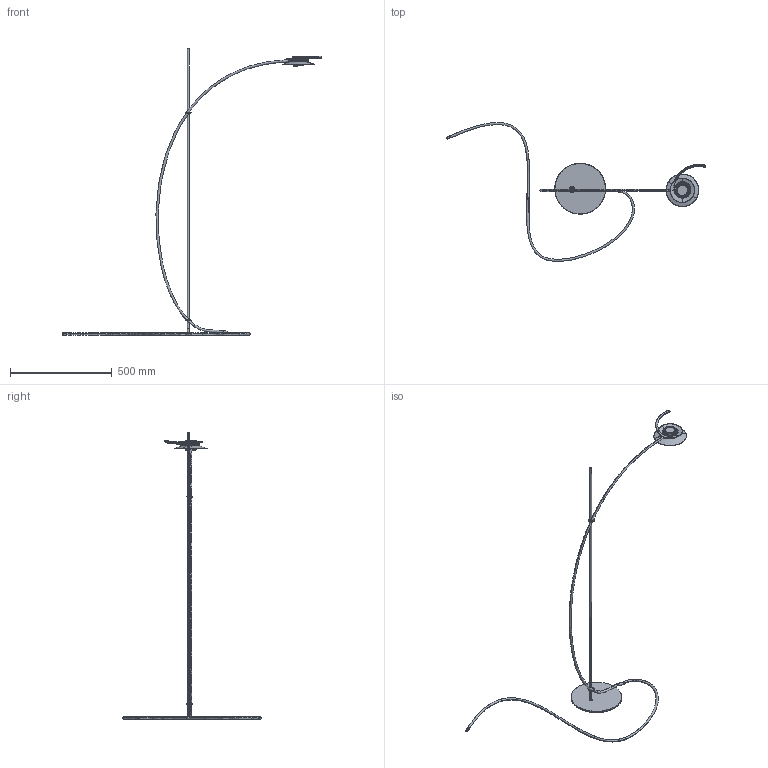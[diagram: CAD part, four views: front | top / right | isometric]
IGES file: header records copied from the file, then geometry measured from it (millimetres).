
Start section: 8718200_Bodenplatte..SLDPRT - PrototypeComponentType 8718200_Bodenplatte..SLDPRT - PrototypeComponentType Seil_Steh..SLDPRT - PrototypeComponentType Seil_Steh..SLDPRT - PrototypeComponentType socket countersunk head screw_din..sldprt - PrototypeComponentType socket countersunk head screw_din..sldprt - PrototypeComponentType 8718201_Standrohr..SLDPRT - PrototypeComponentType 8718201_Standrohr..SLDP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
Global section: file name: \\serv-dc-01\01_DESIGN\Design_Projekt\Produkte\Ms. Bowjangles\Produktzeichnungen\3D-Daten Website\Ms.Bowjangles\Ms.Bowjangles.igs; native system: Rhinoceros ( Dec  8 2020 ); preprocessor: Trout Lake IGES 012 Dec  8 2020; date: 241030.160417; units: millimetre
Bounding box: 1273.68 x 683.1 x 1406.5 mm (x, y, z)
Surface area: 455268.2 mm2 (no closed solid volume)
Topology: 0 solids, 0 shells, 1161 faces, 8469 edges, 8422 vertices
Faces by surface type: bspline 1161
